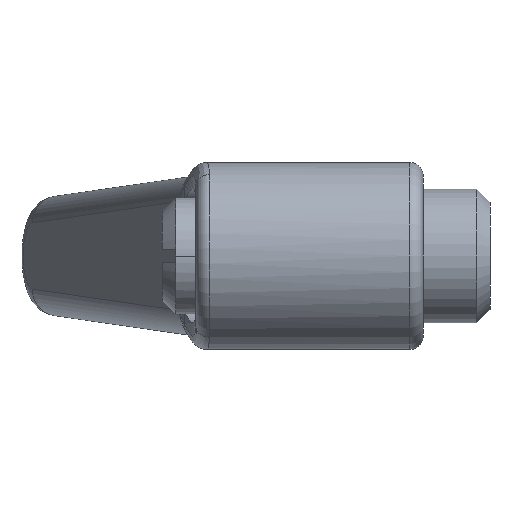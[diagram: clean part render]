
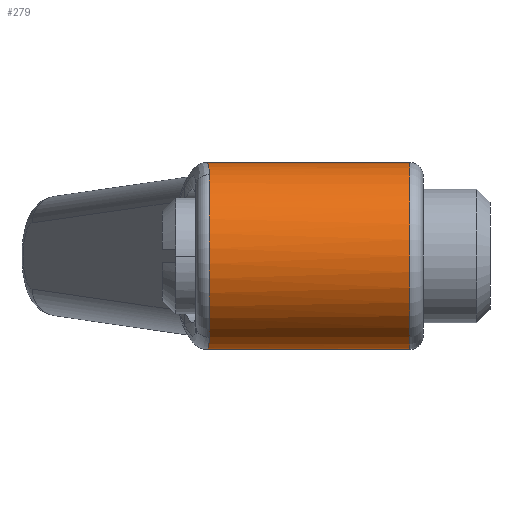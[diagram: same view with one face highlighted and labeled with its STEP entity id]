
A CAD part, left-side view. The second image highlights one B-rep face of the part: STEP entity #279.
In plain terms, the highlighted cylindrical face has radius 7 mm (diameter 14 mm), a partial arc.
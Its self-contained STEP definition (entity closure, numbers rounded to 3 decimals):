
#50 = EDGE_CURVE ( 'NONE', #1032, #479, #508, .T. ) ;
#93 = EDGE_CURVE ( 'NONE', #161, #260, #1253, .T. ) ;
#139 = EDGE_CURVE ( 'NONE', #2314, #1282, #1598, .T. ) ;
#155 = CARTESIAN_POINT ( 'NONE',  ( 0., -0.789, 7. ) ) ;
#161 = VERTEX_POINT ( 'NONE', #551 ) ;
#250 = DIRECTION ( 'NONE',  ( 0., -1., 0. ) ) ;
#260 = VERTEX_POINT ( 'NONE', #1073 ) ;
#269 = FACE_OUTER_BOUND ( 'NONE', #1006, .T. ) ;
#279 = ADVANCED_FACE ( 'NONE', ( #269 ), #1591, .T. ) ;
#288 = CARTESIAN_POINT ( 'NONE',  ( -2.931, -1., -6.386 ) ) ;
#326 = CARTESIAN_POINT ( 'NONE',  ( -1.206, -0.917, 6.921 ) ) ;
#360 = EDGE_CURVE ( 'NONE', #1282, #161, #1844, .T. ) ;
#362 = ORIENTED_EDGE ( 'NONE', *, *, #1645, .T. ) ;
#384 = CARTESIAN_POINT ( 'NONE',  ( -3.461, -1., -6.084 ) ) ;
#422 = CIRCLE ( 'NONE', #1462, 7. ) ;
#479 = VERTEX_POINT ( 'NONE', #997 ) ;
#482 = DIRECTION ( 'NONE',  ( 0., -1., 0. ) ) ;
#488 = EDGE_CURVE ( 'NONE', #260, #479, #422, .T. ) ;
#503 = CARTESIAN_POINT ( 'NONE',  ( -2.362, -0.98, 6.596 ) ) ;
#508 = LINE ( 'NONE', #1343, #750 ) ;
#528 = AXIS2_PLACEMENT_3D ( 'NONE', #719, #1991, #890 ) ;
#551 = CARTESIAN_POINT ( 'NONE',  ( 0., -0.789, -7. ) ) ;
#585 = ORIENTED_EDGE ( 'NONE', *, *, #360, .T. ) ;
#643 = ORIENTED_EDGE ( 'NONE', *, *, #488, .T. ) ;
#666 = CARTESIAN_POINT ( 'NONE',  ( 0., -16., 0. ) ) ;
#677 = CARTESIAN_POINT ( 'NONE',  ( -3.196, -1., 6.235 ) ) ;
#719 = CARTESIAN_POINT ( 'NONE',  ( 0., -1., 0. ) ) ;
#749 = CARTESIAN_POINT ( 'NONE',  ( -3.461, -1., 6.084 ) ) ;
#750 = VECTOR ( 'NONE', #482, 1000. ) ;
#769 = CARTESIAN_POINT ( 'NONE',  ( -1.196, -0.912, -6.904 ) ) ;
#820 = ORIENTED_EDGE ( 'NONE', *, *, #50, .F. ) ;
#834 = DIRECTION ( 'NONE',  ( 0., 0., 1. ) ) ;
#877 = CARTESIAN_POINT ( 'NONE',  ( 0., 17., -7. ) ) ;
#890 = DIRECTION ( 'NONE',  ( 0., 0., -1. ) ) ;
#932 = ORIENTED_EDGE ( 'NONE', *, *, #139, .T. ) ;
#942 = CARTESIAN_POINT ( 'NONE',  ( -0.299, -0.826, -7. ) ) ;
#997 = CARTESIAN_POINT ( 'NONE',  ( 0., -16., 7. ) ) ;
#1006 = EDGE_LOOP ( 'NONE', ( #820, #362, #932, #585, #1502, #643 ) ) ;
#1032 = VERTEX_POINT ( 'NONE', #1930 ) ;
#1044 = DIRECTION ( 'NONE',  ( 0., -1., 0. ) ) ;
#1073 = CARTESIAN_POINT ( 'NONE',  ( 0., -16., -7. ) ) ;
#1102 = DIRECTION ( 'NONE',  ( 0., 0., -1. ) ) ;
#1253 = LINE ( 'NONE', #877, #1307 ) ;
#1282 = VERTEX_POINT ( 'NONE', #384 ) ;
#1307 = VECTOR ( 'NONE', #1044, 1000. ) ;
#1343 = CARTESIAN_POINT ( 'NONE',  ( 0., 17., 7. ) ) ;
#1350 = CARTESIAN_POINT ( 'NONE',  ( -0.597, -0.862, 7. ) ) ;
#1462 = AXIS2_PLACEMENT_3D ( 'NONE', #666, #1928, #834 ) ;
#1502 = ORIENTED_EDGE ( 'NONE', *, *, #93, .T. ) ;
#1532 = CARTESIAN_POINT ( 'NONE',  ( -2.077, -0.968, 6.691 ) ) ;
#1591 = CYLINDRICAL_SURFACE ( 'NONE', #2225, 7. ) ;
#1598 = CIRCLE ( 'NONE', #528, 7. ) ;
#1645 = EDGE_CURVE ( 'NONE', #1032, #2314, #2113, .T. ) ;
#1646 = CARTESIAN_POINT ( 'NONE',  ( 0., 17., 0. ) ) ;
#1726 = CARTESIAN_POINT ( 'NONE',  ( -2.921, -0.996, 6.368 ) ) ;
#1844 = B_SPLINE_CURVE_WITH_KNOTS ( 'NONE', 3,
 ( #2296, #288, #2222, #1849, #769, #2053, #942, #2252 ),
 .UNSPECIFIED., .F., .F.,
 ( 4, 2, 2, 4 ),
 ( 0., 0.002, 0.003, 0.004 ),
 .UNSPECIFIED. ) ;
#1849 = CARTESIAN_POINT ( 'NONE',  ( -1.497, -0.934, -6.845 ) ) ;
#1928 = DIRECTION ( 'NONE',  ( 0., 1., 0. ) ) ;
#1930 = CARTESIAN_POINT ( 'NONE',  ( 0., -0.789, 7. ) ) ;
#1935 = CARTESIAN_POINT ( 'NONE',  ( -3.461, -1., 6.084 ) ) ;
#1991 = DIRECTION ( 'NONE',  ( 0., -1., 0. ) ) ;
#2053 = CARTESIAN_POINT ( 'NONE',  ( -0.598, -0.858, -6.981 ) ) ;
#2113 = B_SPLINE_CURVE_WITH_KNOTS ( 'NONE', 3,
 ( #155, #1350, #326, #1532, #503, #1726, #677, #1935 ),
 .UNSPECIFIED., .F., .F.,
 ( 4, 2, 2, 4 ),
 ( 0.004, 0.006, 0.007, 0.007 ),
 .UNSPECIFIED. ) ;
#2222 = CARTESIAN_POINT ( 'NONE',  ( -2.373, -0.985, -6.613 ) ) ;
#2225 = AXIS2_PLACEMENT_3D ( 'NONE', #1646, #250, #1102 ) ;
#2252 = CARTESIAN_POINT ( 'NONE',  ( 0., -0.789, -7. ) ) ;
#2296 = CARTESIAN_POINT ( 'NONE',  ( -3.461, -1., -6.084 ) ) ;
#2314 = VERTEX_POINT ( 'NONE', #749 ) ;
